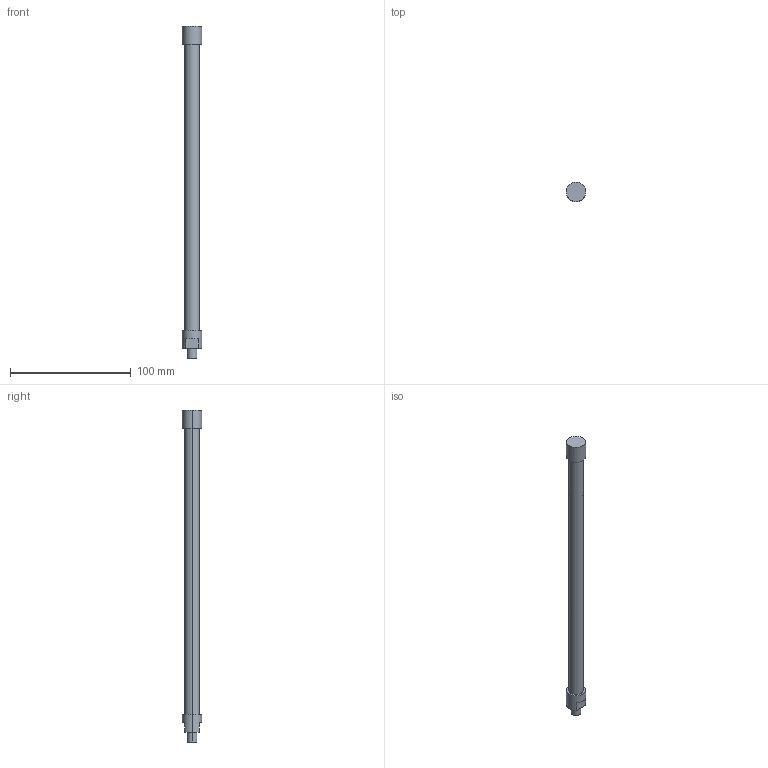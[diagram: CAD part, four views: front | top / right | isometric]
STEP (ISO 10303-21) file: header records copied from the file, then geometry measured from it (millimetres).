
FILE_DESCRIPTION(('STEP AP214'),'1');
FILE_NAME('C:/Users/Autocad/Desktop/275-90 M.stp','2014-02-10T09:22:30',(' '),(' '),'Spatial InterOp 3D',' ',' ');
FILE_SCHEMA(('automotive_design'));
Length unit declared in the file: metre
Products named in the file (2): 1; 2
Bounding box: 16 x 16 x 275 mm (x, y, z)
Volume: 13961.9 mm3; surface area: 18578.7 mm2
Topology: 1 solids, 5 shells, 27 faces, 62 edges, 46 vertices
Faces by surface type: cylinder 14, plane 13
Entity records: 1056 total; most frequent: DIRECTION 158, CARTESIAN_POINT 137, ORIENTED_EDGE 112, AXIS2_PLACEMENT_3D 67, EDGE_CURVE 62, VERTEX_POINT 46, CIRCLE 38, EDGE_LOOP 32
